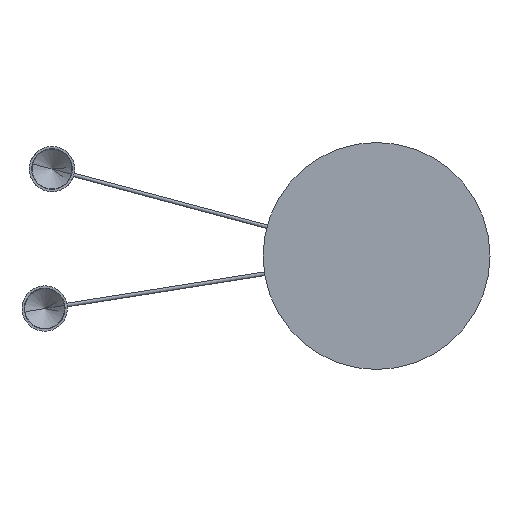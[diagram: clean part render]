
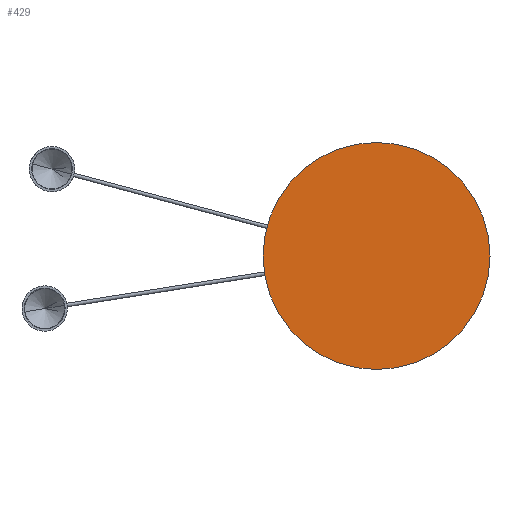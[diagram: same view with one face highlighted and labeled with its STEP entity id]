
A CAD part, front view. The second image highlights one B-rep face of the part: STEP entity #429.
In plain terms, the highlighted planar face has unit normal (0, -1, 0).
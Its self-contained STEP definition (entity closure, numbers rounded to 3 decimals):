
#59 = AXIS2_PLACEMENT_3D ( 'NONE', #512, #1282, #2064 ) ;
#101 = VERTEX_POINT ( 'NONE', #1453 ) ;
#192 = DIRECTION ( 'NONE',  ( 0., 0., 1. ) ) ;
#205 = PLANE ( 'NONE',  #2017 ) ;
#429 = ADVANCED_FACE ( 'NONE', ( #2333 ), #205, .F. ) ;
#512 = CARTESIAN_POINT ( 'NONE',  ( 0., 0., 0. ) ) ;
#525 = ORIENTED_EDGE ( 'NONE', *, *, #1129, .F. ) ;
#546 = VERTEX_POINT ( 'NONE', #1802 ) ;
#616 = EDGE_CURVE ( 'NONE', #101, #546, #639, .T. ) ;
#639 = CIRCLE ( 'NONE', #2129, 125. ) ;
#988 = DIRECTION ( 'NONE',  ( 0., 1., 0. ) ) ;
#1129 = EDGE_CURVE ( 'NONE', #546, #101, #1147, .T. ) ;
#1147 = CIRCLE ( 'NONE', #59, 125. ) ;
#1213 = ORIENTED_EDGE ( 'NONE', *, *, #616, .F. ) ;
#1282 = DIRECTION ( 'NONE',  ( 0., 1., 0. ) ) ;
#1382 = CARTESIAN_POINT ( 'NONE',  ( 0., 0., 0. ) ) ;
#1453 = CARTESIAN_POINT ( 'NONE',  ( 0., 0., -125. ) ) ;
#1575 = CARTESIAN_POINT ( 'NONE',  ( 0., 0., 0. ) ) ;
#1697 = EDGE_LOOP ( 'NONE', ( #1213, #525 ) ) ;
#1802 = CARTESIAN_POINT ( 'NONE',  ( 0., 0., 125. ) ) ;
#1913 = DIRECTION ( 'NONE',  ( 0., 1., 0. ) ) ;
#2017 = AXIS2_PLACEMENT_3D ( 'NONE', #1575, #1913, #192 ) ;
#2064 = DIRECTION ( 'NONE',  ( 0., 0., 1. ) ) ;
#2129 = AXIS2_PLACEMENT_3D ( 'NONE', #1382, #988, #2392 ) ;
#2333 = FACE_OUTER_BOUND ( 'NONE', #1697, .T. ) ;
#2392 = DIRECTION ( 'NONE',  ( 0., 0., 1. ) ) ;
